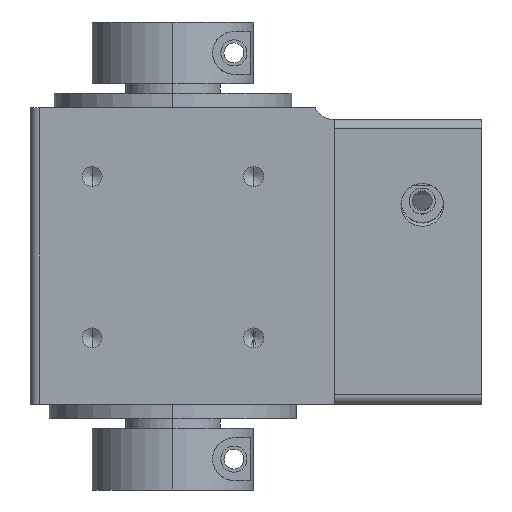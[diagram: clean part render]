
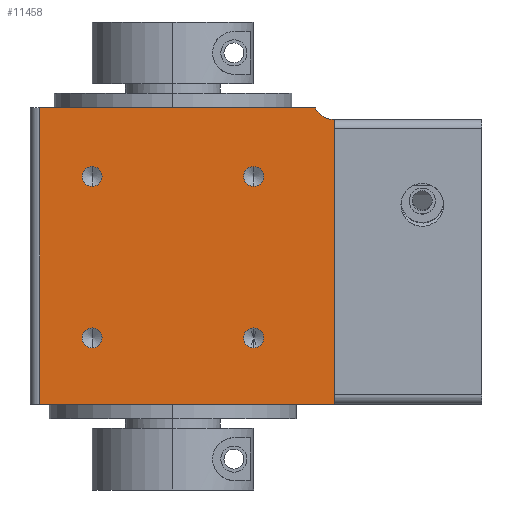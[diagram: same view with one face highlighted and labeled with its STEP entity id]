
A CAD part, left-side view. The second image highlights one B-rep face of the part: STEP entity #11458.
In plain terms, the highlighted planar face has unit normal (-1, 0, 0).
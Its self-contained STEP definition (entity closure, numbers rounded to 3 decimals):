
#358 = ORIENTED_EDGE ( 'NONE', *, *, #1137, .F. ) ;
#1137 = EDGE_CURVE ( 'NONE', #3643, #9514, #27298, .T. ) ;
#2081 = CARTESIAN_POINT ( 'NONE',  ( -30., -32., 67.45 ) ) ;
#2404 = FACE_BOUND ( 'NONE', #33683, .T. ) ;
#2472 = ORIENTED_EDGE ( 'NONE', *, *, #5178, .F. ) ;
#2610 = DIRECTION ( 'NONE',  ( 0., 0., 1. ) ) ;
#2742 = CIRCLE ( 'NONE', #29924, 2.1 ) ;
#3366 = EDGE_CURVE ( 'NONE', #18408, #10153, #32166, .T. ) ;
#3570 = EDGE_LOOP ( 'NONE', ( #358, #30095 ) ) ;
#3643 = VERTEX_POINT ( 'NONE', #30664 ) ;
#4559 = EDGE_CURVE ( 'NONE', #21978, #26380, #28436, .T. ) ;
#4571 = DIRECTION ( 'NONE',  ( -1., 0., 0. ) ) ;
#4864 = VERTEX_POINT ( 'NONE', #24695 ) ;
#4999 = CIRCLE ( 'NONE', #31510, 2.1 ) ;
#5178 = EDGE_CURVE ( 'NONE', #4864, #5833, #4999, .T. ) ;
#5234 = AXIS2_PLACEMENT_3D ( 'NONE', #22700, #4571, #25483 ) ;
#5476 = EDGE_CURVE ( 'NONE', #7019, #6263, #16121, .T. ) ;
#5708 = CIRCLE ( 'NONE', #5234, 2.1 ) ;
#5833 = VERTEX_POINT ( 'NONE', #30329 ) ;
#6118 = VERTEX_POINT ( 'NONE', #20642 ) ;
#6263 = VERTEX_POINT ( 'NONE', #26375 ) ;
#6650 = DIRECTION ( 'NONE',  ( 0., 0., 1. ) ) ;
#6755 = DIRECTION ( 'NONE',  ( -1., 0., 0. ) ) ;
#6878 = CARTESIAN_POINT ( 'NONE',  ( -30., -32., 62.95 ) ) ;
#7019 = VERTEX_POINT ( 'NONE', #6878 ) ;
#7068 = VECTOR ( 'NONE', #21719, 1000. ) ;
#7343 = FACE_BOUND ( 'NONE', #30053, .T. ) ;
#7395 = ORIENTED_EDGE ( 'NONE', *, *, #21277, .F. ) ;
#8232 = CARTESIAN_POINT ( 'NONE',  ( -30., 19., 53.1 ) ) ;
#8376 = DIRECTION ( 'NONE',  ( -1., 0., 0. ) ) ;
#8426 = EDGE_CURVE ( 'NONE', #5833, #4864, #21436, .T. ) ;
#8457 = EDGE_CURVE ( 'NONE', #6118, #6263, #19808, .T. ) ;
#8617 = VECTOR ( 'NONE', #26954, 1000. ) ;
#9395 = VECTOR ( 'NONE', #22727, 1000. ) ;
#9514 = VERTEX_POINT ( 'NONE', #21121 ) ;
#10153 = VERTEX_POINT ( 'NONE', #20389 ) ;
#10560 = DIRECTION ( 'NONE',  ( -1., 0., 0. ) ) ;
#11308 = AXIS2_PLACEMENT_3D ( 'NONE', #24123, #8376, #13658 ) ;
#11458 = ADVANCED_FACE ( 'NONE', ( #12696, #16005, #19674, #7343, #2404 ), #11661, .F. ) ;
#11542 = DIRECTION ( 'NONE',  ( 0., 0., -1. ) ) ;
#11581 = EDGE_CURVE ( 'NONE', #9514, #3643, #5708, .T. ) ;
#11661 = PLANE ( 'NONE',  #12924 ) ;
#12260 = EDGE_CURVE ( 'NONE', #26567, #13717, #24604, .T. ) ;
#12696 = FACE_OUTER_BOUND ( 'NONE', #25976, .T. ) ;
#12779 = ORIENTED_EDGE ( 'NONE', *, *, #4559, .F. ) ;
#12887 = DIRECTION ( 'NONE',  ( 1., 0., 0. ) ) ;
#12915 = CARTESIAN_POINT ( 'NONE',  ( -30., 19., 14.9 ) ) ;
#12924 = AXIS2_PLACEMENT_3D ( 'NONE', #22355, #19719, #11542 ) ;
#12956 = ORIENTED_EDGE ( 'NONE', *, *, #8426, .F. ) ;
#13658 = DIRECTION ( 'NONE',  ( 0., 0., 1. ) ) ;
#13717 = VERTEX_POINT ( 'NONE', #8232 ) ;
#13875 = CARTESIAN_POINT ( 'NONE',  ( -30., 19., 17. ) ) ;
#14062 = EDGE_CURVE ( 'NONE', #13717, #26567, #2742, .T. ) ;
#14562 = CARTESIAN_POINT ( 'NONE',  ( -30., 19., 51. ) ) ;
#15064 = ORIENTED_EDGE ( 'NONE', *, *, #32563, .F. ) ;
#15708 = AXIS2_PLACEMENT_3D ( 'NONE', #13875, #18945, #16307 ) ;
#16003 = AXIS2_PLACEMENT_3D ( 'NONE', #31098, #33546, #30662 ) ;
#16005 = FACE_BOUND ( 'NONE', #3570, .T. ) ;
#16057 = ORIENTED_EDGE ( 'NONE', *, *, #8457, .F. ) ;
#16121 = CIRCLE ( 'NONE', #17688, 4.5 ) ;
#16304 = CARTESIAN_POINT ( 'NONE',  ( -30., -32., 68.5 ) ) ;
#16307 = DIRECTION ( 'NONE',  ( 0., 0., 1. ) ) ;
#17688 = AXIS2_PLACEMENT_3D ( 'NONE', #2081, #12887, #23446 ) ;
#18408 = VERTEX_POINT ( 'NONE', #18698 ) ;
#18409 = DIRECTION ( 'NONE',  ( 0., 0., 1. ) ) ;
#18698 = CARTESIAN_POINT ( 'NONE',  ( -30., -32., 3. ) ) ;
#18945 = DIRECTION ( 'NONE',  ( -1., 0., 0. ) ) ;
#19071 = CARTESIAN_POINT ( 'NONE',  ( -30., 0., 65.5 ) ) ;
#19516 = ORIENTED_EDGE ( 'NONE', *, *, #20065, .T. ) ;
#19674 = FACE_BOUND ( 'NONE', #23367, .T. ) ;
#19719 = DIRECTION ( 'NONE',  ( 1., 0., 0. ) ) ;
#19808 = LINE ( 'NONE', #19071, #20621 ) ;
#20065 = EDGE_CURVE ( 'NONE', #18408, #7019, #31660, .T. ) ;
#20274 = AXIS2_PLACEMENT_3D ( 'NONE', #28702, #10560, #18409 ) ;
#20389 = CARTESIAN_POINT ( 'NONE',  ( -30., 30., 3. ) ) ;
#20621 = VECTOR ( 'NONE', #32057, 1000. ) ;
#20642 = CARTESIAN_POINT ( 'NONE',  ( -30., 30., 65.5 ) ) ;
#20964 = CIRCLE ( 'NONE', #15708, 2.1 ) ;
#21121 = CARTESIAN_POINT ( 'NONE',  ( -30., -15., 14.9 ) ) ;
#21277 = EDGE_CURVE ( 'NONE', #10153, #6118, #21725, .T. ) ;
#21436 = CIRCLE ( 'NONE', #11308, 2.1 ) ;
#21642 = CARTESIAN_POINT ( 'NONE',  ( -30., 19., 48.9 ) ) ;
#21719 = DIRECTION ( 'NONE',  ( 0., 1., 0. ) ) ;
#21725 = LINE ( 'NONE', #25158, #9395 ) ;
#21978 = VERTEX_POINT ( 'NONE', #12915 ) ;
#22290 = CARTESIAN_POINT ( 'NONE',  ( -30., 19., 51. ) ) ;
#22355 = CARTESIAN_POINT ( 'NONE',  ( -30., -32., 68.5 ) ) ;
#22406 = DIRECTION ( 'NONE',  ( -1., 0., 0. ) ) ;
#22700 = CARTESIAN_POINT ( 'NONE',  ( -30., -15., 17. ) ) ;
#22727 = DIRECTION ( 'NONE',  ( 0., 0., 1. ) ) ;
#23033 = ORIENTED_EDGE ( 'NONE', *, *, #14062, .F. ) ;
#23227 = ORIENTED_EDGE ( 'NONE', *, *, #5476, .T. ) ;
#23367 = EDGE_LOOP ( 'NONE', ( #15064, #12779 ) ) ;
#23397 = CARTESIAN_POINT ( 'NONE',  ( -30., -15., 51. ) ) ;
#23446 = DIRECTION ( 'NONE',  ( 0., 0., 1. ) ) ;
#24123 = CARTESIAN_POINT ( 'NONE',  ( -30., -15., 51. ) ) ;
#24604 = CIRCLE ( 'NONE', #27452, 2.1 ) ;
#24695 = CARTESIAN_POINT ( 'NONE',  ( -30., -15., 53.1 ) ) ;
#25158 = CARTESIAN_POINT ( 'NONE',  ( -30., 30., 68.5 ) ) ;
#25483 = DIRECTION ( 'NONE',  ( 0., 0., 1. ) ) ;
#25688 = CARTESIAN_POINT ( 'NONE',  ( -30., 19., 19.1 ) ) ;
#25976 = EDGE_LOOP ( 'NONE', ( #23227, #16057, #7395, #28292, #19516 ) ) ;
#26375 = CARTESIAN_POINT ( 'NONE',  ( -30., -27.944, 65.5 ) ) ;
#26380 = VERTEX_POINT ( 'NONE', #25688 ) ;
#26567 = VERTEX_POINT ( 'NONE', #21642 ) ;
#26954 = DIRECTION ( 'NONE',  ( 0., 0., 1. ) ) ;
#27298 = CIRCLE ( 'NONE', #16003, 2.1 ) ;
#27452 = AXIS2_PLACEMENT_3D ( 'NONE', #22290, #22406, #30578 ) ;
#28292 = ORIENTED_EDGE ( 'NONE', *, *, #3366, .F. ) ;
#28436 = CIRCLE ( 'NONE', #20274, 2.1 ) ;
#28702 = CARTESIAN_POINT ( 'NONE',  ( -30., 19., 17. ) ) ;
#29924 = AXIS2_PLACEMENT_3D ( 'NONE', #14562, #6755, #6650 ) ;
#30053 = EDGE_LOOP ( 'NONE', ( #23033, #32283 ) ) ;
#30095 = ORIENTED_EDGE ( 'NONE', *, *, #11581, .F. ) ;
#30329 = CARTESIAN_POINT ( 'NONE',  ( -30., -15., 48.9 ) ) ;
#30578 = DIRECTION ( 'NONE',  ( 0., 0., 1. ) ) ;
#30662 = DIRECTION ( 'NONE',  ( 0., 0., 1. ) ) ;
#30664 = CARTESIAN_POINT ( 'NONE',  ( -30., -15., 19.1 ) ) ;
#31098 = CARTESIAN_POINT ( 'NONE',  ( -30., -15., 17. ) ) ;
#31342 = DIRECTION ( 'NONE',  ( -1., 0., 0. ) ) ;
#31510 = AXIS2_PLACEMENT_3D ( 'NONE', #23397, #31342, #2610 ) ;
#31660 = LINE ( 'NONE', #16304, #8617 ) ;
#31886 = CARTESIAN_POINT ( 'NONE',  ( -30., 0., 3. ) ) ;
#32057 = DIRECTION ( 'NONE',  ( 0., -1., 0. ) ) ;
#32166 = LINE ( 'NONE', #31886, #7068 ) ;
#32283 = ORIENTED_EDGE ( 'NONE', *, *, #12260, .F. ) ;
#32563 = EDGE_CURVE ( 'NONE', #26380, #21978, #20964, .T. ) ;
#33546 = DIRECTION ( 'NONE',  ( -1., 0., 0. ) ) ;
#33683 = EDGE_LOOP ( 'NONE', ( #2472, #12956 ) ) ;
